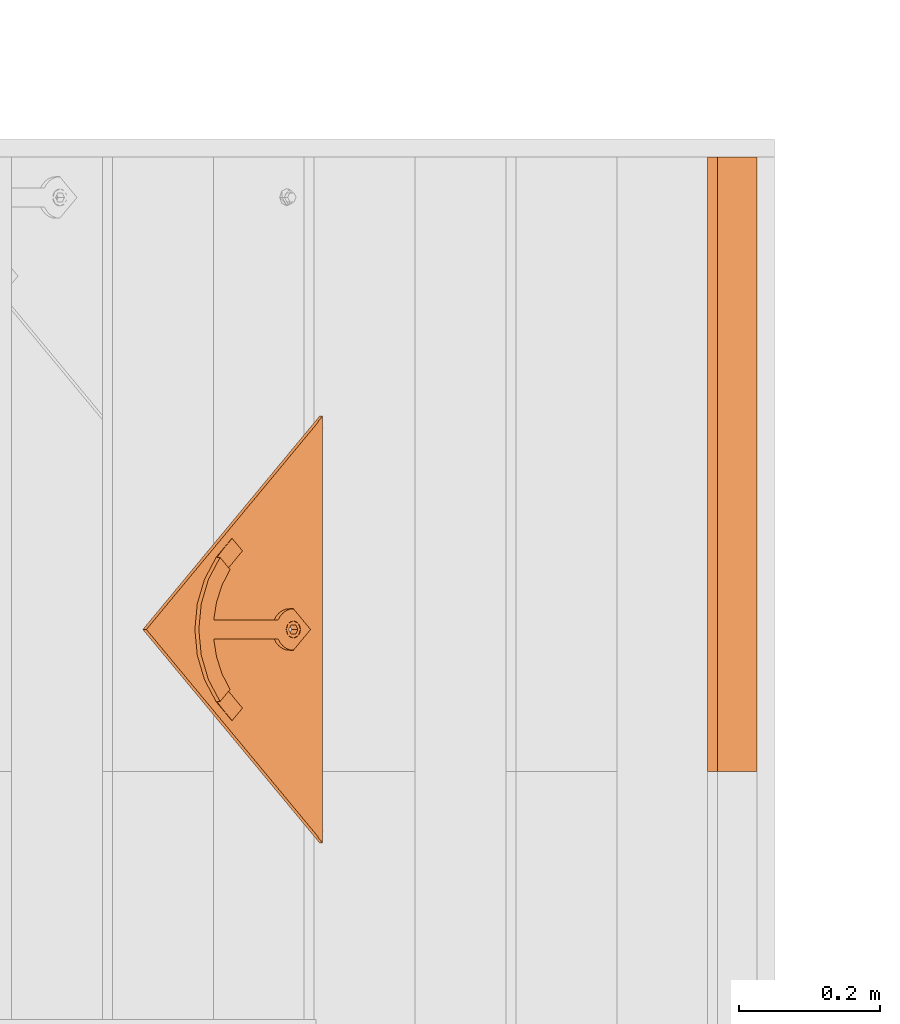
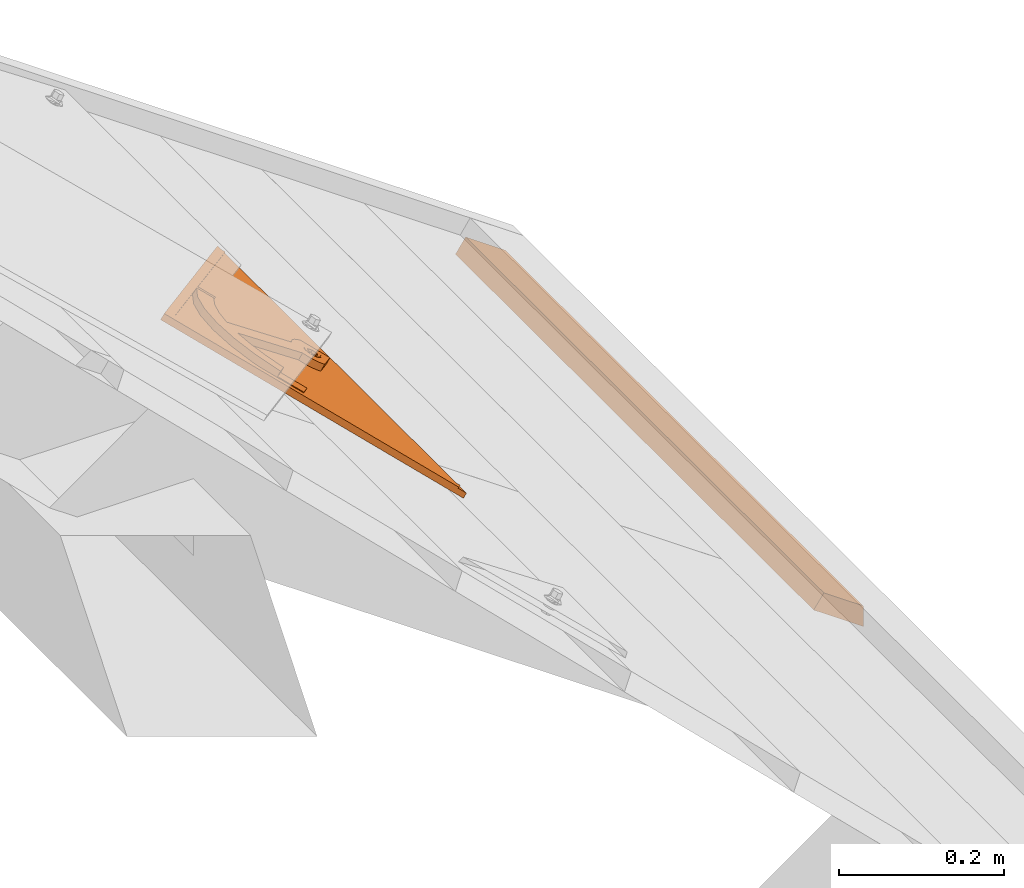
# One storey, part 140 of 151: 2 proxies, 1 element without a shape of its own.
"""IFC2X3 building model written with IfcOpenShell, lengths in millimetres."""

from ifc_helpers import new_model, entity, si_unit, converted_unit, derived_unit, direction, frame, origin, place, context, subcontext, project, spatial, polyline, outline, extrude, faceted_brep, source, transform, mapped, material, material_list, type_object, type_shapes, element, aggregate, save


model = new_model("IFC2X3")

# Units and contexts
model_context = context("Model", 3, precision=0.01, world=origin(), true_north=direction((6.12303176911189e-17, 1.0)))
body_context = subcontext(model_context, "Body", "Model", "MODEL_VIEW")
ifc_project = project(units=[si_unit("LENGTHUNIT", "METRE", prefix="MILLI"), si_unit("AREAUNIT", "SQUARE_METRE"), si_unit("VOLUMEUNIT", "CUBIC_METRE"), converted_unit("PLANEANGLEUNIT", "DEGREE", entity("IfcRatioMeasure", 0.0174532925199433), si_unit("PLANEANGLEUNIT", "RADIAN"), dimensions=[0, 0, 0, 0, 0, 0, 0]), si_unit("MASSUNIT", "GRAM", prefix="KILO"), derived_unit("MASSDENSITYUNIT", [(si_unit("MASSUNIT", "GRAM", prefix="KILO"), 1), (si_unit("LENGTHUNIT", "METRE"), -3)]), si_unit("TIMEUNIT", "SECOND"), si_unit("FREQUENCYUNIT", "HERTZ"), si_unit("THERMODYNAMICTEMPERATUREUNIT", "DEGREE_CELSIUS"), derived_unit("THERMALTRANSMITTANCEUNIT", [(si_unit("MASSUNIT", "GRAM", prefix="KILO"), 1), (si_unit("THERMODYNAMICTEMPERATUREUNIT", "KELVIN"), -1), (si_unit("TIMEUNIT", "SECOND"), -3)]), derived_unit("VOLUMETRICFLOWRATEUNIT", [(si_unit("LENGTHUNIT", "METRE"), 3), (si_unit("TIMEUNIT", "SECOND"), -1)]), si_unit("ELECTRICCURRENTUNIT", "AMPERE"), si_unit("ELECTRICVOLTAGEUNIT", "VOLT"), si_unit("POWERUNIT", "WATT"), si_unit("FORCEUNIT", "NEWTON", prefix="KILO"), si_unit("ILLUMINANCEUNIT", "LUX"), si_unit("LUMINOUSFLUXUNIT", "LUMEN"), si_unit("LUMINOUSINTENSITYUNIT", "CANDELA"), derived_unit("USERDEFINED", [(si_unit("MASSUNIT", "GRAM", prefix="KILO"), -1), (si_unit("LENGTHUNIT", "METRE"), -2), (si_unit("TIMEUNIT", "SECOND"), 3), (si_unit("LUMINOUSFLUXUNIT", "LUMEN"), 1)]), derived_unit("LINEARVELOCITYUNIT", [(si_unit("LENGTHUNIT", "METRE"), 1), (si_unit("TIMEUNIT", "SECOND"), -1)]), si_unit("PRESSUREUNIT", "PASCAL"), derived_unit("USERDEFINED", [(si_unit("LENGTHUNIT", "METRE"), -2), (si_unit("MASSUNIT", "GRAM", prefix="KILO"), 1), (si_unit("TIMEUNIT", "SECOND"), -2)])], contexts=[model_context])

# Site, building, storey
site_placement = place(None, origin())
site = spatial("IfcSite", under=ifc_project, at=site_placement, Name="Default", CompositionType="ELEMENT")
building_placement = place(site_placement, origin())
building = spatial("IfcBuilding", under=site, at=building_placement, CompositionType="ELEMENT")
storey_placement = place(building_placement, origin())
storey = spatial("IfcBuildingStorey", under=building, at=storey_placement, Name="Level 1", CompositionType="ELEMENT", Elevation=0.0)

# Assembly, proxy
assembly_placement = place(storey_placement, origin())
assembly = element("IfcElementAssembly", 1, at=assembly_placement, inside=storey, Name="Structural Framing Assembly:Roof Construction Assembly", ObjectType="Structural Framing Assembly:Roof Construction Assembly", AssemblyPlace="NOTDEFINED", PredefinedType="USERDEFINED")
ifc_material_1 = material(Name="Wood - Generic - Wood For Showcase")
building_element_proxy_type_1 = type_object("IfcBuildingElementProxyType", Name="Structural Framing 15", PredefinedType="NOTDEFINED", material=ifc_material_1)
shared_shape_1 = source(origin(), body_context, "Body", "SweptSolid", [
    extrude(outline(polyline([(-12.4999999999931, -38.2231230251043), (12.4999999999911, -38.2231230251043), (12.4999999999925, 29.4705287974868), (-12.499999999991, 46.975717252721), (-12.4999999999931, -38.2231230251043)])), frame((5101.25878028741, -6581.94919785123, 88.3155178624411), z_axis=(0.0, 1.0, 0.0), x_axis=(0.573576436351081, 0.0, 0.819152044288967)), (0.0, 0.0, 1.0), 869.999999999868),
])
type_shapes(building_element_proxy_type_1, [shared_shape_1])
proxy_1_placement = place(assembly_placement, frame((57.4878711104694, 9637.49999999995, 0.0)))
proxy_1 = element("IfcBuildingElementProxy", 2, at=proxy_1_placement, type_object=building_element_proxy_type_1, material=ifc_material_1, Name="Structural Framing 294:Structural Framing 15", ObjectType="Structural Framing 294:Structural Framing 15", context=body_context, shape_type="MappedRepresentation", body=[
    mapped(shared_shape_1, transform((0.0, 0.0, 0.0), scale=1.0)),
])
aggregate(assembly, [proxy_1])

# Proxy
ifc_material_2 = material(Name="Rubber - Sunstyle - Black")
ifc_material_3 = material(Name="Glass - Sunstyle - Tainted Black")
ifc_material_list_1 = material_list([ifc_material_2, ifc_material_3])
ifc_material_list_2 = material_list([ifc_material_2, ifc_material_3])
building_element_proxy_type_2 = type_object("IfcBuildingElementProxyType", Name="Shingle Bottom Small - Black", PredefinedType="NOTDEFINED", material=ifc_material_list_2)
shared_shape_2 = source(origin(), body_context, "Body", "Brep", [
    faceted_brep([(302.08842791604, 44.9093317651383, 22.0558382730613), (302.08842791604, 49.408700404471, 21.980485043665), (293.484723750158, 48.4726030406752, 21.9961623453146), (310.692132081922, 48.4726030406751, 21.9961623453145), (308.728656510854, 53.2419006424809, 21.9162884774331), (314.255903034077, 57.0751008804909, 21.8520919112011), (308.728656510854, 60.9083011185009, 21.7878953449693), (310.692132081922, 65.6775987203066, 21.7080214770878), (302.08842791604, 64.7415013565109, 21.7236987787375), (302.08842791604, 69.2408699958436, 21.6483455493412), (293.484723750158, 65.6775987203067, 21.708021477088), (295.448199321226, 60.908301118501, 21.7878953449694), (289.920952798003, 57.0751008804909, 21.8520919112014), (295.448199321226, 53.2419006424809, 21.9162884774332), (295.448199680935, 60.6403782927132, 5.79013870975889), (302.08842791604, 64.473578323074, 5.72594214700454), (295.448199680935, 52.9739782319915, 5.91853183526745), (302.08842791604, 49.1407782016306, 5.98272839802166), (308.728656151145, 52.9739782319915, 5.91853183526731), (308.728656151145, 60.6403782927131, 5.79013870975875), (293.484723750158, 48.2046804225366, 5.99840570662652), (302.08842791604, 44.6414091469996, 6.05808163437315), (289.920952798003, 56.8071782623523, 5.85433527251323), (293.484723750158, 65.4096761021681, 5.71026483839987), (302.08842791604, 68.972947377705, 5.65058891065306), (310.692132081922, 65.409676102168, 5.71026483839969), (314.255903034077, 56.8071782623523, 5.85433527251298), (310.692132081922, 48.2046804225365, 5.99840570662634)], [[[0, 1, 2]], [[1, 0, 3]], [[3, 4, 1]], [[4, 3, 5]], [[6, 4, 5]], [[5, 7, 6]], [[7, 8, 6]], [[8, 7, 9]], [[8, 9, 10]], [[10, 11, 8]], [[12, 11, 10]], [[2, 13, 12]], [[12, 13, 11]], [[13, 2, 1]], [[8, 11, 14, 15]], [[11, 13, 16, 14]], [[13, 1, 17, 16]], [[1, 4, 18, 17]], [[4, 6, 19, 18]], [[6, 8, 15, 19]], [[20, 17, 21]], [[17, 20, 16]], [[22, 16, 20]], [[14, 16, 22]], [[23, 14, 22]], [[15, 14, 23]], [[23, 24, 15]], [[24, 25, 15]], [[19, 15, 25]], [[19, 25, 26]], [[26, 18, 19]], [[26, 27, 18]], [[17, 18, 27]], [[27, 21, 17]], [[24, 23, 10, 9]], [[10, 23, 22, 12]], [[20, 21, 0, 2]], [[20, 2, 12, 22]], [[21, 27, 3, 0]], [[3, 27, 26, 5]], [[25, 24, 9, 7]], [[25, 7, 5, 26]]]),
    faceted_brep([(587.35835892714, 0.0, 12.5593198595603), (595.843045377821, 8.4846864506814, 12.4172224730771), (595.843045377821, 8.50980419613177, 13.9170121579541), (587.35835892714, 0.0251177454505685, 14.0591095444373), (302.088750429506, 285.189618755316, 7.7831033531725), (16.8191419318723, 0.0, 12.5593198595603), (8.33445548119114, 8.48468645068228, 12.4172224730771), (302.088750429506, 302.156612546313, 7.49894842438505), (302.088750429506, 302.181730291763, 8.9987381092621), (8.33445548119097, 8.50980419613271, 13.9170121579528), (16.8191419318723, 0.0251177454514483, 14.0591095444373), (302.088750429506, 285.214736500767, 9.28289303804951)], [[[0, 1, 2, 3]], [[1, 0, 4, 5, 6, 7]], [[2, 1, 7, 8]], [[3, 2, 8, 9, 10, 11]], [[0, 3, 11, 4]], [[5, 10, 9, 6]], [[8, 7, 6, 9]], [[4, 11, 10, 5]]]),
    faceted_brep([(302.088750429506, 302.156612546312, 7.49894842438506), (305.194256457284, 68.3255429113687, 11.4150370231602), (308.088427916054, 67.1269059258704, 11.4351112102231), (302.088427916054, 68.7343756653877, 11.4081900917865), (310.573709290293, 65.2201498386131, 11.4670446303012), (298.982599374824, 68.3255429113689, 11.4150370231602), (296.088427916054, 67.1269059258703, 11.4351112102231), (293.603146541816, 65.2201498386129, 11.4670446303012), (312.480732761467, 62.7352169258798, 11.5086610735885), (604.177500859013, 0.152567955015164, 12.5567647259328), (291.696123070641, 62.7352169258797, 11.5086610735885), (0.0, 0.152567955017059, 12.5567647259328), (290.497318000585, 59.8414512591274, 11.5571244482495), (290.088427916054, 56.7360581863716, 11.6091320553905), (290.497318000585, 53.6306651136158, 11.6611396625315), (291.696123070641, 50.7368994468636, 11.7096030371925), (293.603146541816, 48.2519665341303, 11.7512194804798), (296.088427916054, 46.3452104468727, 11.7831529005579), (298.982599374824, 45.1465734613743, 11.8032270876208), (302.088427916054, 44.7377407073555, 11.8100740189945), (313.679537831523, 59.8414512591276, 11.5571244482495), (314.088427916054, 56.7360581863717, 11.6091320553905), (313.679537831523, 53.6306651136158, 11.6611396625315), (312.480732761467, 50.7368994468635, 11.7096030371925), (310.573709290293, 48.2519665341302, 11.7512194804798), (308.088427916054, 46.3452104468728, 11.7831529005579), (305.194256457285, 45.1465734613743, 11.8032270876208), (0.0, 0.0269792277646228, 5.0578163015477), (290.088427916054, 56.6104694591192, 4.11018363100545), (290.497318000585, 53.5050763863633, 4.16219123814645), (290.497318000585, 59.7158625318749, 4.05817602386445), (291.696123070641, 50.6113107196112, 4.21065461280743), (291.696123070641, 62.6096281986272, 4.00971264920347), (302.088750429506, 302.031023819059, 0.0), (293.603146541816, 48.1263778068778, 4.25227105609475), (296.088427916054, 46.2196217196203, 4.28420447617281), (298.982599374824, 45.0209847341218, 4.30427866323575), (302.088427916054, 44.612151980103, 4.31112559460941), (604.177500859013, 0.0269792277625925, 5.05781630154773), (293.603146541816, 65.0945611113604, 3.96809620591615), (296.088427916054, 67.0013171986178, 3.93616278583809), (298.982599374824, 68.1999541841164, 3.91608859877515), (302.088427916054, 68.6087869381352, 3.90924166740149), (305.194256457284, 68.1999541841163, 3.91608859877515), (308.088427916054, 67.0013171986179, 3.93616278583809), (310.573709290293, 65.0945611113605, 3.96809620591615), (312.480732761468, 62.6096281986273, 4.00971264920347), (305.194256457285, 45.0209847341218, 4.30427866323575), (308.088427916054, 46.2196217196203, 4.28420447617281), (313.679537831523, 59.7158625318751, 4.05817602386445), (314.088427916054, 56.6104694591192, 4.11018363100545), (313.679537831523, 53.5050763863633, 4.16219123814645), (312.480732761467, 50.611310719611, 4.21065461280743), (310.573709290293, 48.1263778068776, 4.25227105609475)], [[[0, 1, 2]], [[1, 0, 3]], [[0, 2, 4]], [[5, 3, 0]], [[6, 5, 0]], [[0, 7, 6]], [[8, 0, 4]], [[0, 8, 9]], [[7, 0, 10]], [[0, 11, 10]], [[12, 10, 11]], [[11, 13, 12]], [[13, 11, 14]], [[15, 14, 11]], [[11, 16, 15]], [[17, 16, 11]], [[17, 11, 18]], [[19, 18, 11]], [[19, 11, 9]], [[9, 8, 20]], [[20, 21, 9]], [[21, 22, 9]], [[22, 23, 9]], [[9, 23, 24]], [[24, 25, 9]], [[25, 26, 9]], [[9, 26, 19]], [[27, 28, 29]], [[28, 27, 30]], [[27, 29, 31]], [[32, 30, 27]], [[32, 27, 33]], [[31, 34, 27]], [[34, 35, 27]], [[35, 36, 27]], [[36, 37, 27]], [[27, 37, 38]], [[33, 39, 32]], [[40, 39, 33]], [[41, 40, 33]], [[42, 41, 33]], [[33, 43, 42]], [[43, 33, 44]], [[45, 44, 33]], [[33, 46, 45]], [[46, 33, 38]], [[38, 37, 47]], [[47, 48, 38]], [[49, 46, 38]], [[38, 50, 49]], [[50, 38, 51]], [[52, 51, 38]], [[53, 52, 38]], [[53, 38, 48]], [[11, 0, 33, 27]], [[0, 9, 38, 33]], [[13, 28, 30, 12]], [[12, 30, 32, 10]], [[6, 7, 39, 40]], [[39, 7, 10, 32]], [[5, 6, 40, 41]], [[5, 41, 42, 3]], [[3, 42, 43, 1]], [[1, 43, 44, 2]], [[8, 4, 45, 46]], [[45, 4, 2, 44]], [[20, 8, 46, 49]], [[20, 49, 50, 21]], [[21, 50, 51, 22]], [[22, 51, 52, 23]], [[25, 24, 53, 48]], [[53, 24, 23, 52]], [[26, 25, 48, 47]], [[26, 47, 37, 19]], [[19, 37, 36, 18]], [[18, 36, 35, 17]], [[15, 16, 34, 31]], [[34, 16, 17, 35]], [[14, 15, 31, 29]], [[14, 29, 28, 13]], [[9, 11, 27, 38]]]),
    faceted_brep([(190.819384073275, 138.646056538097, 12.7376939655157), (217.144031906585, 164.967013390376, 12.2968834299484), (200.060856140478, 182.04779392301, 12.0108228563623), (193.80845410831, 176.686146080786, 12.100617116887), (187.837458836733, 171.012871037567, 12.1956303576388), (173.141714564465, 156.321247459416, 12.4416784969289), (431.035141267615, 156.321247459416, 12.4416784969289), (416.339396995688, 171.012871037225, 12.1956303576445), (410.36840172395, 176.686146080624, 12.1006171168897), (404.115999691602, 182.047793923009, 12.0108228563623), (387.031626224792, 164.968210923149, 12.2968633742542), (413.357471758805, 138.646056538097, 12.7376939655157), (296.088427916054, 67.294357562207, 21.4337091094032), (288.788427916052, 83.1076295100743, 21.1688761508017), (283.384321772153, 79.569581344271, 21.2281296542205), (293.603146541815, 65.3876014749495, 21.4656425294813), (298.982599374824, 68.4929945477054, 21.4136349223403), (302.088427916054, 68.9018273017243, 21.4067879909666), (315.388427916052, 83.107629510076, 21.1688761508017), (305.194256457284, 68.4929945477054, 21.4136349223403), (308.088427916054, 67.2943575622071, 21.4337091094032), (320.792534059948, 79.5695813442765, 21.2281296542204), (310.573709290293, 65.3876014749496, 21.4656425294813), (325.293078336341, 74.9365758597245, 21.3057209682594), (312.480732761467, 62.9026685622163, 21.5072589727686), (328.672647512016, 69.4324252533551, 21.3979017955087), (313.679537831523, 60.0089028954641, 21.5557223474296), (330.767980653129, 63.323025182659, 21.500219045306), (314.088427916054, 56.9035098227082, 21.6077299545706), (331.477855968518, 56.9035098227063, 21.6077299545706), (313.679537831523, 53.7981167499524, 21.6597375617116), (312.480732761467, 50.9043510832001, 21.7082009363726), (310.573709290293, 48.4194181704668, 21.7498173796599), (302.08842791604, 27.5182024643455, 22.0998607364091), (308.088427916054, 46.5126620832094, 21.7817507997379), (305.194256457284, 45.314025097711, 21.8018249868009), (302.088427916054, 44.9051923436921, 21.8086719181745), (298.982599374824, 45.314025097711, 21.8018249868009), (296.088427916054, 46.5126620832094, 21.7817507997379), (293.603146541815, 48.4194181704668, 21.7498173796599), (272.69899986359, 56.903509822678, 21.6077299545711), (291.696123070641, 50.9043510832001, 21.7082009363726), (290.497318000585, 53.7981167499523, 21.6597375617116), (290.088427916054, 56.9035098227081, 21.6077299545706), (273.408875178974, 63.3230251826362, 21.5002190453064), (290.497318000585, 60.008902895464, 21.5557223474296), (275.504208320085, 69.4324252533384, 21.397901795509), (291.696123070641, 62.9026685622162, 21.5072589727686), (278.883777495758, 74.9365758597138, 21.3057209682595), (288.788427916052, 192.984512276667, 19.3287117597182), (315.388427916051, 192.984512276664, 19.3287117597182), (302.088427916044, 218.456125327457, 18.9021256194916), (338.579268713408, 214.282159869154, 18.9720291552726), (340.858170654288, 188.169632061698, 19.4093490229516), (373.184513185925, 201.975945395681, 19.1781276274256), (365.012761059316, 178.765998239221, 19.5668364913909), (404.115999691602, 182.173382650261, 19.5097712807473), (387.032823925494, 165.092602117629, 19.7958318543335), (265.59758711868, 214.28215986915, 18.9720291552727), (263.318685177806, 188.169632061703, 19.4093490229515), (230.992342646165, 201.975945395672, 19.1781276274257), (239.164094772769, 178.765998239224, 19.5668364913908), (200.06085614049, 182.173382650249, 19.5097712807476), (217.144031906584, 165.092602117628, 19.7958318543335), (302.08842791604, 27.3507508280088, 12.1012628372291), (302.088427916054, 44.7377407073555, 11.8100740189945), (305.194256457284, 45.1465734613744, 11.8032270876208), (298.982599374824, 45.1465734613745, 11.8032270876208), (308.088427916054, 46.3452104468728, 11.7831529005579), (310.573709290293, 48.2519665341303, 11.7512194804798), (331.477855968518, 56.7360581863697, 11.6091320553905), (296.088427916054, 46.3452104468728, 11.7831529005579), (293.603146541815, 48.2519665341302, 11.7512194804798), (272.69899986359, 56.7360581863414, 11.609132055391), (291.696123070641, 50.7368994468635, 11.7096030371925), (290.497318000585, 53.6306651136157, 11.6611396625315), (290.088427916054, 56.7360581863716, 11.6091320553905), (273.408875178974, 63.1555735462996, 11.5016211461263), (290.497318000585, 59.8414512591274, 11.5571244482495), (275.504208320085, 69.2649736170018, 11.3993038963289), (291.696123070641, 62.7352169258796, 11.5086610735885), (278.883777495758, 74.7691242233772, 11.3071230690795), (293.603146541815, 65.2201498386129, 11.4670446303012), (283.384321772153, 79.4021297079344, 11.2295317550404), (296.088427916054, 67.1269059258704, 11.4351112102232), (288.788427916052, 82.9401778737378, 11.1702782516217), (298.982599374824, 68.3255429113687, 11.4150370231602), (302.088427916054, 68.7343756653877, 11.4081900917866), (315.388427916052, 82.9401778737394, 11.1702782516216), (288.788427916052, 192.81706064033, 9.33011386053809), (315.388427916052, 192.817060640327, 9.33011386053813), (302.088427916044, 218.28867369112, 8.90352772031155), (265.59758711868, 214.114708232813, 8.97343125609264), (263.318685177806, 188.002180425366, 9.41075112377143), (230.992342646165, 201.808493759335, 9.17952972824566), (239.164094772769, 178.598546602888, 9.56823859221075), (200.06085614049, 182.005931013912, 9.51117338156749), (217.145229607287, 164.926348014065, 9.79721389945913), (193.80845410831, 176.644283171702, 9.60096764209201), (187.837458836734, 170.971008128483, 9.69598088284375), (190.819384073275, 138.604193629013, 10.2380444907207), (173.141714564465, 156.279384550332, 9.94202902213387), (338.579268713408, 214.114708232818, 8.97343125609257), (340.858170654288, 188.002180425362, 9.41075112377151), (373.184513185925, 201.808493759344, 9.17952972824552), (365.012761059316, 178.598546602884, 9.5682385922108), (404.115999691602, 182.005931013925, 9.51117338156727), (387.032823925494, 164.925150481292, 9.79723395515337), (410.36840172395, 176.64428317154, 9.60096764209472), (416.339396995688, 170.971008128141, 9.69598088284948), (413.357471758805, 138.604193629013, 10.2380444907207), (431.035141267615, 156.279384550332, 9.94202902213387), (305.194256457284, 68.3255429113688, 11.4150370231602), (308.088427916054, 67.1269059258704, 11.4351112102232), (320.792534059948, 79.4021297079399, 11.2295317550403), (310.573709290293, 65.220149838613, 11.4670446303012), (325.293078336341, 74.7691242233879, 11.3071230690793), (312.480732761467, 62.7352169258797, 11.5086610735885), (328.672647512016, 69.2649736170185, 11.3993038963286), (313.679537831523, 59.8414512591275, 11.5571244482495), (330.767980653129, 63.1555735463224, 11.5016211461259), (314.088427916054, 56.7360581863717, 11.6091320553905), (312.480732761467, 50.7368994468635, 11.7096030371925), (313.679537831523, 53.6306651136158, 11.6611396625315)], [[[0, 1, 2, 3, 4, 5]], [[6, 7, 8, 9, 10, 11]], [[12, 13, 14]], [[12, 14, 15]], [[16, 13, 12]], [[17, 13, 16]], [[18, 13, 17]], [[17, 19, 18]], [[19, 20, 18]], [[20, 21, 18]], [[21, 20, 22]], [[21, 22, 23]], [[24, 23, 22]], [[23, 24, 25]], [[24, 26, 25]], [[27, 25, 26]], [[26, 28, 27]], [[29, 27, 28]], [[28, 30, 29]], [[30, 31, 29]], [[29, 31, 32]], [[32, 33, 29]], [[32, 34, 33]], [[35, 33, 34]], [[36, 33, 35]], [[33, 36, 37]], [[38, 33, 37]], [[38, 39, 33]], [[40, 33, 39]], [[41, 40, 39]], [[41, 42, 40]], [[42, 43, 40]], [[43, 44, 40]], [[45, 44, 43]], [[45, 46, 44]], [[45, 47, 46]], [[48, 46, 47]], [[48, 47, 15]], [[48, 15, 14]], [[18, 49, 13]], [[50, 49, 18]], [[51, 49, 50]], [[50, 52, 51]], [[50, 53, 52]], [[52, 53, 54]], [[53, 55, 54]], [[56, 54, 55]], [[57, 56, 55]], [[58, 49, 51]], [[49, 58, 59]], [[60, 59, 58]], [[60, 61, 59]], [[61, 60, 62]], [[62, 63, 61]], [[64, 65, 66]], [[65, 64, 67]], [[64, 66, 68]], [[68, 69, 64]], [[64, 69, 70]], [[71, 67, 64]], [[71, 64, 72]], [[72, 64, 73]], [[73, 74, 72]], [[74, 73, 75]], [[75, 73, 76]], [[77, 76, 73]], [[76, 77, 78]], [[78, 77, 79]], [[80, 78, 79]], [[81, 80, 79]], [[82, 80, 81]], [[83, 82, 81]], [[83, 84, 82]], [[85, 84, 83]], [[85, 86, 84]], [[87, 86, 85]], [[88, 87, 85]], [[89, 88, 85]], [[88, 89, 90]], [[89, 91, 90]], [[91, 89, 92]], [[93, 92, 89]], [[92, 93, 94]], [[95, 94, 93]], [[96, 94, 95]], [[95, 97, 96]], [[97, 98, 96]], [[98, 97, 99]], [[97, 100, 99]], [[99, 100, 101]], [[90, 91, 102]], [[103, 90, 102]], [[103, 102, 104]], [[105, 103, 104]], [[106, 105, 104]], [[107, 105, 106]], [[106, 108, 107]], [[109, 107, 108]], [[110, 107, 109]], [[109, 111, 110]], [[112, 87, 88]], [[113, 112, 88]], [[114, 113, 88]], [[115, 113, 114]], [[115, 114, 116]], [[116, 117, 115]], [[117, 116, 118]], [[118, 119, 117]], [[120, 119, 118]], [[121, 120, 70]], [[120, 121, 119]], [[70, 69, 122]], [[122, 123, 70]], [[123, 121, 70]], [[13, 49, 89, 85]], [[14, 13, 85, 83]], [[48, 14, 83, 81]], [[81, 79, 46, 48]], [[44, 46, 79, 77]], [[40, 44, 77, 73]], [[33, 40, 73, 64]], [[0, 5, 101, 100]], [[29, 33, 64, 70]], [[6, 11, 110, 111]], [[27, 29, 70, 120]], [[25, 27, 120, 118]], [[118, 116, 23, 25]], [[21, 23, 116, 114]], [[18, 21, 114, 88]], [[50, 18, 88, 90]], [[9, 106, 104, 54, 56]], [[52, 54, 104, 102]], [[51, 52, 102, 91]], [[58, 51, 91, 92]], [[94, 96, 2, 62, 60]], [[60, 58, 92, 94]], [[43, 76, 78, 45]], [[45, 78, 80, 47]], [[12, 15, 82, 84]], [[80, 82, 15, 47]], [[16, 12, 84, 86]], [[87, 17, 16, 86]], [[19, 112, 113, 20]], [[20, 113, 115, 22]], [[26, 24, 117, 119]], [[115, 117, 24, 22]], [[28, 26, 119, 121]], [[19, 17, 87, 112]], [[28, 121, 123, 30]], [[30, 123, 122, 31]], [[34, 32, 69, 68]], [[122, 69, 32, 31]], [[35, 34, 68, 66]], [[65, 36, 35, 66]], [[37, 67, 71, 38]], [[38, 71, 72, 39]], [[42, 41, 74, 75]], [[72, 74, 41, 39]], [[43, 42, 75, 76]], [[37, 36, 65, 67]], [[7, 6, 111, 109]], [[7, 109, 108, 8]], [[108, 106, 9, 8]], [[11, 10, 107, 110]], [[1, 0, 100, 97]], [[2, 96, 98, 3]], [[98, 99, 4, 3]], [[5, 4, 99, 101]], [[63, 62, 2, 1]], [[56, 57, 10]], [[10, 9, 56]], [[1, 95, 61, 63]], [[1, 97, 95]], [[93, 89, 49, 59]], [[95, 93, 59, 61]], [[90, 103, 53, 50]], [[103, 105, 55, 53]], [[10, 57, 55]], [[107, 10, 105]], [[55, 105, 10]]]),
])
type_shapes(building_element_proxy_type_2, [shared_shape_2])
proxy_2_placement = place(storey_placement, frame((4568.10434994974, 2954.6524494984, 515.027738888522), z_axis=(0.573576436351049, 0.0, 0.81915204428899), x_axis=(0.0, 1.0, 0.0)))
element("IfcBuildingElementProxy", 3, at=proxy_2_placement, inside=storey, type_object=building_element_proxy_type_2, material=ifc_material_list_1, Name="Roofing_Panels_SunStyle_Tile_Shingle-Bottom-Small:Shingle Bottom Small - Black", ObjectType="Roofing_Panels_SunStyle_Tile_Shingle-Bottom-Small:Shingle Bottom Small - Black", context=body_context, shape_type="MappedRepresentation", body=[
    mapped(shared_shape_2, transform((0.0, 0.0, 0.0), scale=1.0)),
])

save(model, "model.ifc")
